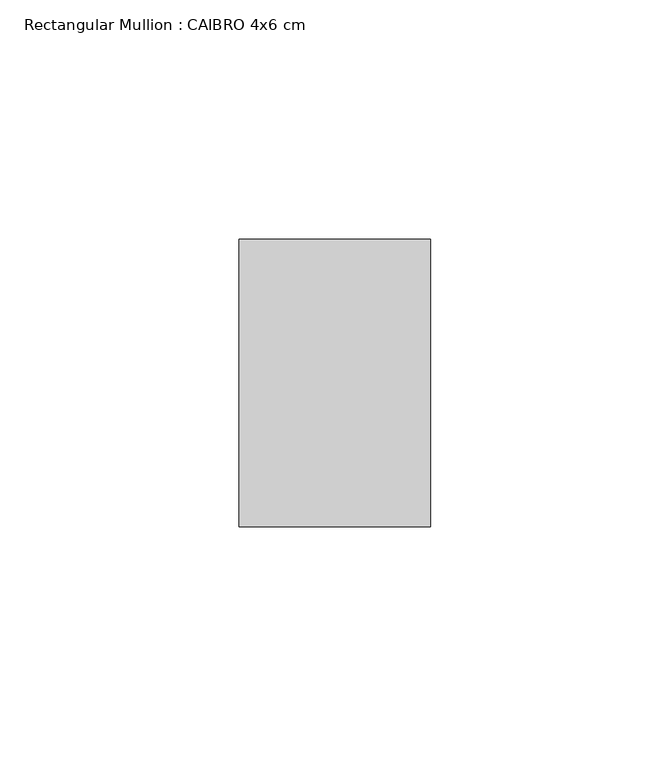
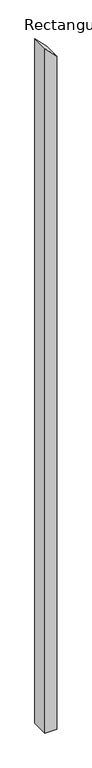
"""IFC4 building model written with IfcOpenShell, lengths in millimetres: member geometry, Rectangular Mullion : CAIBRO 4x6 cm."""

from ifc_helpers import new_model, si_unit, frame, origin, place, context, project, spatial, polyline, outline, extrude, source, transform, mapped, element, save


def rectangular_mullion_caibro_4x6_cm_f2c0a84d(model_context):
    return source(origin(), model_context, "Body", "SweptSolid", [
        extrude(outline(polyline([(-77.109599, 20.0), (-36.6621022, -20.0), (-2523.9710294, -20.0), (-2523.9710294, 20.0), (-77.109599, 20.0)])), frame((0.0, 0.0, 0.0), z_axis=(0.0, 1.0, 0.0), x_axis=(0.0, 0.0, 1.0)), (0.0, 0.0, 1.0), 60.0),
    ])


if __name__ == "__main__":
    model = new_model("IFC4")
    model_context = context("Model", 3, world=origin())
    ifc_project = project(units=[si_unit("LENGTHUNIT", "METRE", prefix="MILLI")], contexts=[model_context])
    site = spatial("IfcSite", under=ifc_project)
    building = spatial("IfcBuilding", under=site)
    placement = place(None, origin())
    rectangular_mullion_caibro_4x6_cm_shape = rectangular_mullion_caibro_4x6_cm_f2c0a84d(model_context)
    element("IfcMember", 1, ObjectType="Rectangular Mullion : CAIBRO 4x6 cm", at=placement, inside=building, context=model_context, shape_type="MappedRepresentation", body=[
        mapped(rectangular_mullion_caibro_4x6_cm_shape, transform((0.0, 0.0, 0.0), x_axis=(1.0, 0.0, 0.0), y_axis=(0.0, 1.0, 0.0), z_axis=(0.0, 0.0, 1.0))),
    ])
    save(model, "model.ifc")
